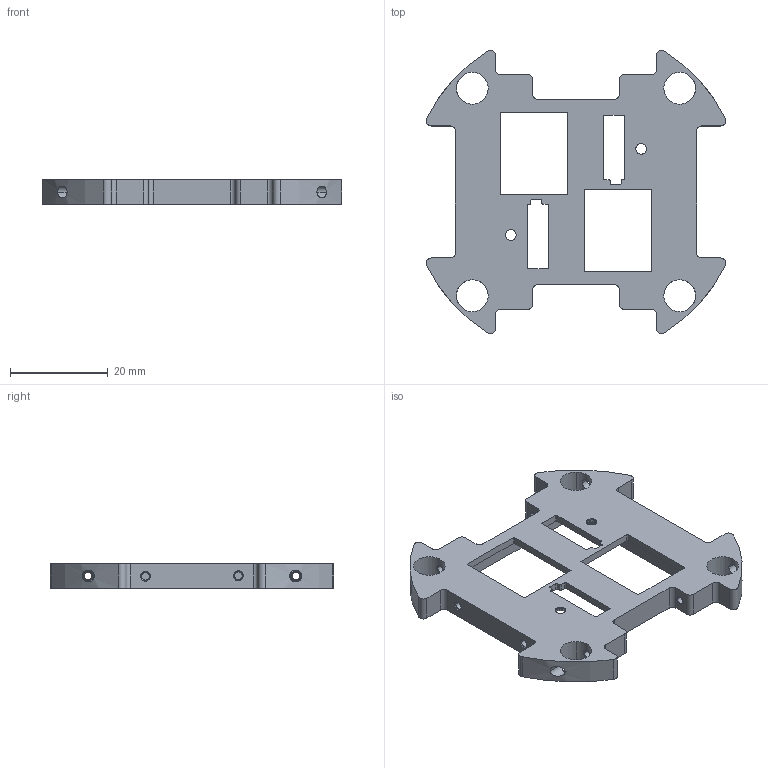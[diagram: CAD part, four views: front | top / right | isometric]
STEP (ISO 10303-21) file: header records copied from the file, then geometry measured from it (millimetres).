
FILE_DESCRIPTION(/* description */ ('VariCAD 2010-3.03 AP-214'),/* implementation_level */ '2;1');
FILE_NAME(/* name */ '0353-19-74',/* time_stamp */ '2011-03-02T22:25:06-07:00',/* author */ (''),/* organization */ (''),/* preprocessor_version */ 'ST-DEVELOPER v12',/* originating_system */ 'VariCAD 2010-3.03; kernel version (20100102)',/* authorisation */ '');
FILE_SCHEMA (('AUTOMOTIVE_DESIGN'));
Length unit declared in the file: millimetre
Products named in the file (1): Part
Bounding box: 61.28 x 57.95 x 5 mm (x, y, z)
Volume: 6387 mm3; surface area: 7039.5 mm2
Topology: 9 solids, 9 shells, 219 faces, 568 edges, 372 vertices
Faces by surface type: cylinder 140, plane 67, cone 12
Entity records: 8999 total; most frequent: CARTESIAN_POINT 1737, DIRECTION 1222, ORIENTED_EDGE 1136, EDGE_CURVE 568, AXIS2_PLACEMENT_3D 465, VERTEX_POINT 372, LINE 292, VECTOR 292
